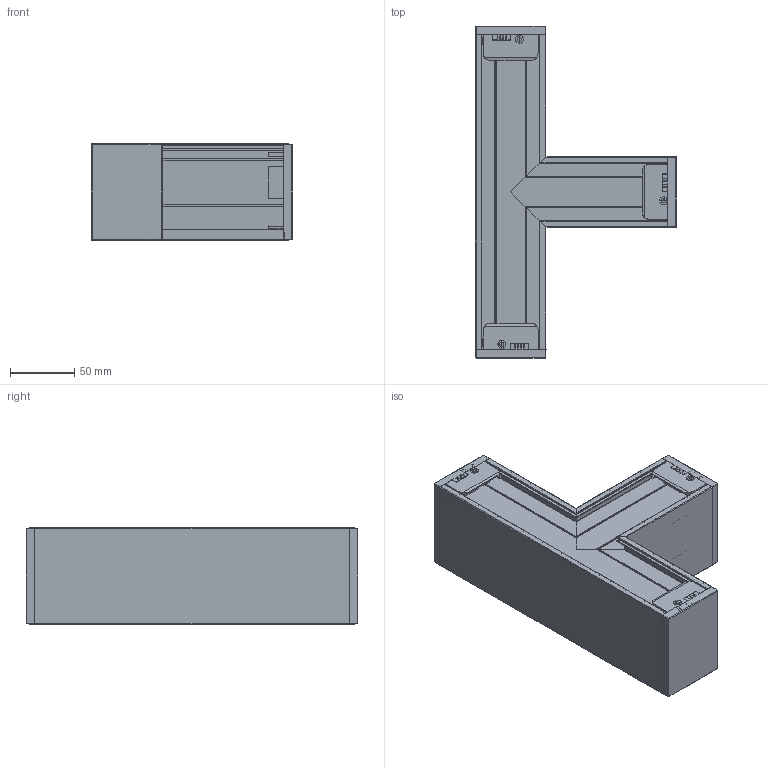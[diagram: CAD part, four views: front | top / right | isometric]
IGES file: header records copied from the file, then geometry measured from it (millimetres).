
Global section: file name: C:\Users\info\Desktop\CRIS\05. NEW PRODUCT\LUMINARIA KISS\3D para web\KISS T - IGS.igs; native system: Rhinoceros ( Feb 27 2019 ); preprocessor: Trout Lake IGES 012 Feb 27 2019; date: 260427.134923; units: millimetre
Bounding box: 156.74 x 258.48 x 75 mm (x, y, z)
Surface area: 344051.1 mm2 (no closed solid volume)
Topology: 0 solids, 0 shells, 3193 faces, 28274 edges, 28265 vertices
Faces by surface type: bspline 3193
